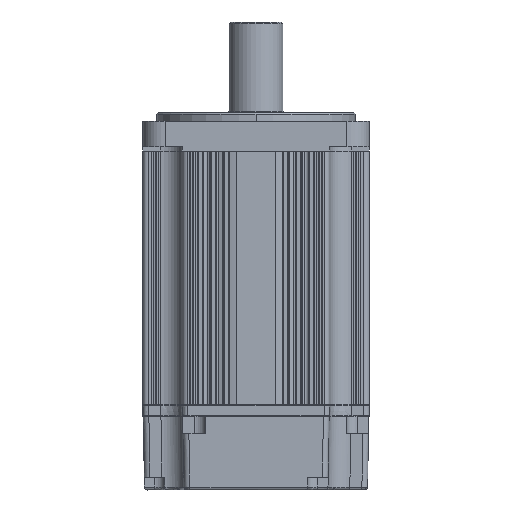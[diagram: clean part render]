
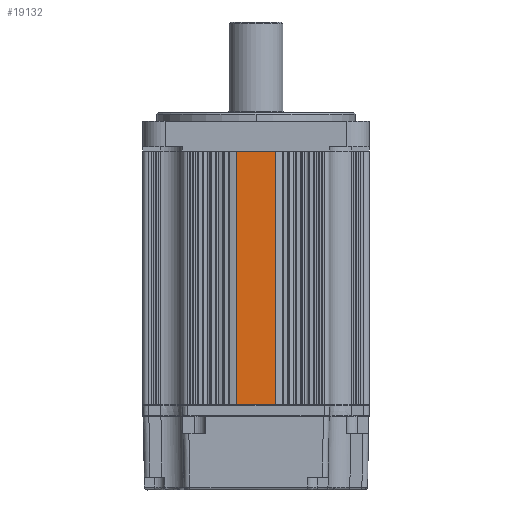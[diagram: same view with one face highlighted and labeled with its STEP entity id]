
A CAD part, front view. The second image highlights one B-rep face of the part: STEP entity #19132.
In plain terms, the highlighted planar face has unit normal (0, -1, 0).
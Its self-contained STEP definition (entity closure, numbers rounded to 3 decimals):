
#7468 = LINE ( 'NONE', #7508, #23543 ) ;
#7508 = CARTESIAN_POINT ( 'NONE',  ( -22.769, -46.664, -57.25 ) ) ;
#7512 = DIRECTION ( 'NONE',  ( 0., 0., -1. ) ) ;
#7516 = LINE ( 'NONE', #7522, #23548 ) ;
#7522 = CARTESIAN_POINT ( 'NONE',  ( -36.769, -46.664, -57.25 ) ) ;
#7527 = DIRECTION ( 'NONE',  ( 0., 0., 1. ) ) ;
#11159 = DIRECTION ( 'NONE',  ( -1., 0., 0. ) ) ;
#11161 = CARTESIAN_POINT ( 'NONE',  ( -3.769, -46.664, 32.25 ) ) ;
#11162 = LINE ( 'NONE', #11161, #15552 ) ;
#11164 = DIRECTION ( 'NONE',  ( -1., 0., 0. ) ) ;
#11184 = CARTESIAN_POINT ( 'NONE',  ( -63.519, -46.664, -57.25 ) ) ;
#11187 = LINE ( 'NONE', #11184, #15554 ) ;
#13825 = DIRECTION ( 'NONE',  ( 0., 0., -1. ) ) ;
#13826 = DIRECTION ( 'NONE',  ( 0., 1., 0. ) ) ;
#13829 = PLANE ( 'NONE',  #15901 ) ;
#13830 = FACE_OUTER_BOUND ( 'NONE', #25485, .T. ) ;
#13838 = CARTESIAN_POINT ( 'NONE',  ( -3.769, -46.664, -57.25 ) ) ;
#15552 = VECTOR ( 'NONE', #11159, 1000. ) ;
#15554 = VECTOR ( 'NONE', #11164, 1000. ) ;
#15901 = AXIS2_PLACEMENT_3D ( 'NONE', #13838, #13826, #13825 ) ;
#19132 = ADVANCED_FACE ( 'NONE', ( #13830 ), #13829, .F. ) ;
#19670 = EDGE_CURVE ( 'NONE', #26439, #26372, #11187, .T. ) ;
#19672 = EDGE_CURVE ( 'NONE', #26353, #26348, #11162, .T. ) ;
#23543 = VECTOR ( 'NONE', #7512, 1000. ) ;
#23548 = VECTOR ( 'NONE', #7527, 1000. ) ;
#25485 = EDGE_LOOP ( 'NONE', ( #26224, #26216, #26215, #26212 ) ) ;
#26212 = ORIENTED_EDGE ( 'NONE', *, *, #19672, .T. ) ;
#26215 = ORIENTED_EDGE ( 'NONE', *, *, #28069, .F. ) ;
#26216 = ORIENTED_EDGE ( 'NONE', *, *, #19670, .F. ) ;
#26224 = ORIENTED_EDGE ( 'NONE', *, *, #28074, .F. ) ;
#26348 = VERTEX_POINT ( 'NONE', #32314 ) ;
#26353 = VERTEX_POINT ( 'NONE', #32331 ) ;
#26372 = VERTEX_POINT ( 'NONE', #32406 ) ;
#26439 = VERTEX_POINT ( 'NONE', #32618 ) ;
#28069 = EDGE_CURVE ( 'NONE', #26353, #26439, #7468, .T. ) ;
#28074 = EDGE_CURVE ( 'NONE', #26372, #26348, #7516, .T. ) ;
#32314 = CARTESIAN_POINT ( 'NONE',  ( -36.769, -46.664, 32.25 ) ) ;
#32331 = CARTESIAN_POINT ( 'NONE',  ( -22.769, -46.664, 32.25 ) ) ;
#32406 = CARTESIAN_POINT ( 'NONE',  ( -36.769, -46.664, -57.25 ) ) ;
#32618 = CARTESIAN_POINT ( 'NONE',  ( -22.769, -46.664, -57.25 ) ) ;
